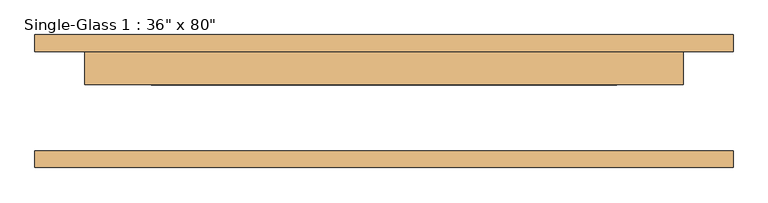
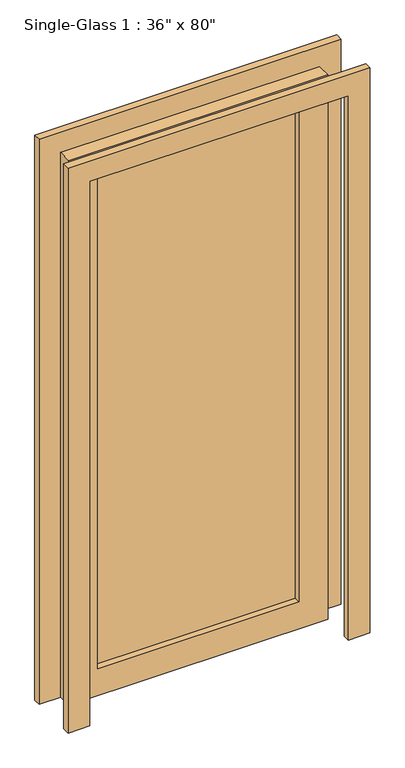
"""IFC4 building model written with IfcOpenShell, lengths in millimetres: door geometry."""

from ifc_helpers import new_model, si_unit, frame, origin, place, context, project, spatial, polyline, outline, extrude, source, transform, mapped, element, save


def door_ddaeacfc(model_context):
    return source(origin(), model_context, "Body", "SweptSolid", [
        extrude(outline(polyline([(2032.0, 457.2), (0.0, 457.2), (0.0, 533.4), (2108.2, 533.4), (2108.2, -533.4), (0.0, -533.4), (0.0, -457.2), (2032.0, -457.2), (2032.0, 457.2)])), frame((0.0, -101.6, 0.0), z_axis=(0.0, 1.0, 0.0), x_axis=(0.0, 0.0, 1.0)), (0.0, 0.0, 1.0), 25.4),
        extrude(outline(polyline([(2032.0, 457.2), (0.0, 457.2), (0.0, 533.4), (2108.2, 533.4), (2108.2, -533.4), (0.0, -533.4), (0.0, -457.2), (2032.0, -457.2), (2032.0, 457.2)])), frame((0.0, 76.2, 0.0), z_axis=(0.0, 1.0, 0.0), x_axis=(0.0, 0.0, 1.0)), (0.0, 0.0, 1.0), 25.4),
        extrude(outline(polyline([(355.6, 47.625), (-355.6, 47.625), (-355.6, 53.975), (355.6, 53.975), (355.6, 47.625)])), frame((0.0, 0.0, 101.6), z_axis=(0.0, 0.0, 1.0), x_axis=(1.0, 0.0, 0.0)), (0.0, 0.0, 1.0), 1828.8),
        extrude(outline(polyline([(2032.0, 457.2), (2032.0, -457.2), (0.0, -457.2), (0.0, 457.2), (2032.0, 457.2)]), holes=[polyline([(1930.4, -355.6), (1930.4, 355.6), (101.6, 355.6), (101.6, -355.6), (1930.4, -355.6)])]), frame((0.0, 25.4, 0.0), z_axis=(0.0, 1.0, 0.0), x_axis=(0.0, 0.0, 1.0)), (0.0, 0.0, 1.0), 50.8),
    ])


if __name__ == "__main__":
    model = new_model("IFC4")
    model_context = context("Model", 3, world=origin())
    ifc_project = project(units=[si_unit("LENGTHUNIT", "METRE", prefix="MILLI")], contexts=[model_context])
    site = spatial("IfcSite", under=ifc_project)
    building = spatial("IfcBuilding", under=site)
    placement = place(None, origin())
    door_shape = door_ddaeacfc(model_context)
    element("IfcDoor", 1, ObjectType="Single-Glass 1 : 36\" x 80\"", at=placement, inside=building, context=model_context, shape_type="MappedRepresentation", body=[
        mapped(door_shape, transform((0.0, 0.0, 0.0), x_axis=(1.0, 0.0, 0.0), y_axis=(0.0, 1.0, 0.0), z_axis=(0.0, 0.0, 1.0))),
    ])
    save(model, "model.ifc")
